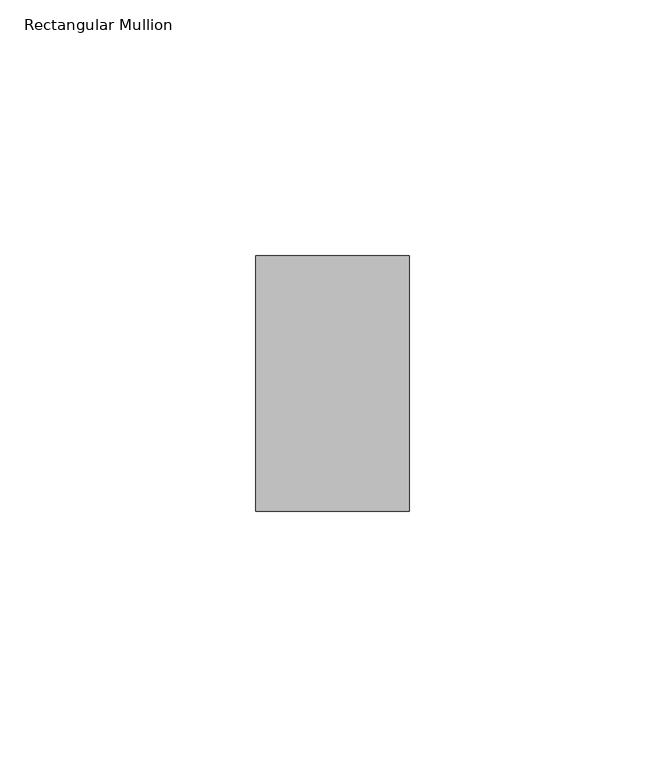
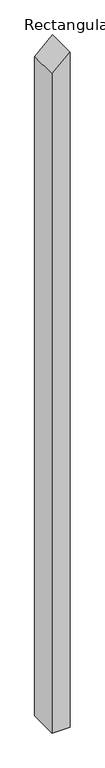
"""IFC4 building model written with IfcOpenShell, lengths in millimetres: member geometry, Rectangular Mullion : ARQ_TV_MULL_50x30mm."""

from ifc_helpers import new_model, si_unit, frame, origin, place, context, project, spatial, polyline, outline, extrude, source, transform, mapped, element, save


def rectangular_mullion_68d75eab(model_context):
    return source(origin(), model_context, "Body", "SweptSolid", [
        extrude(outline(polyline([(0.0, 0.0), (-27.6771039, -30.0), (-1185.0787767, -30.0), (-1185.0787767, 0.0), (0.0, 0.0)])), frame((0.0, -25.0, 0.0), z_axis=(0.0, 1.0, 0.0), x_axis=(0.0, 0.0, 1.0)), (0.0, 0.0, 1.0), 50.0),
    ])


if __name__ == "__main__":
    model = new_model("IFC4")
    model_context = context("Model", 3, world=origin())
    ifc_project = project(units=[si_unit("LENGTHUNIT", "METRE", prefix="MILLI")], contexts=[model_context])
    site = spatial("IfcSite", under=ifc_project)
    building = spatial("IfcBuilding", under=site)
    placement = place(None, origin())
    rectangular_mullion_shape = rectangular_mullion_68d75eab(model_context)
    element("IfcMember", 1, ObjectType="Rectangular Mullion : ARQ_TV_MULL_50x30mm", at=placement, inside=building, context=model_context, shape_type="MappedRepresentation", body=[
        mapped(rectangular_mullion_shape, transform((0.0, 0.0, 0.0), x_axis=(1.0, 0.0, 0.0), y_axis=(0.0, 1.0, 0.0), z_axis=(0.0, 0.0, 1.0))),
    ])
    save(model, "model.ifc")
